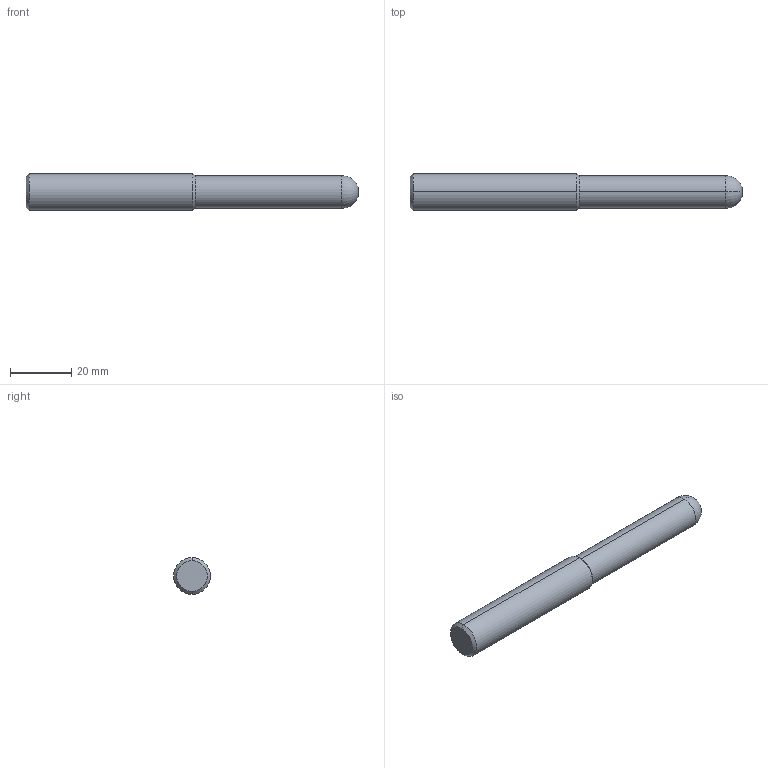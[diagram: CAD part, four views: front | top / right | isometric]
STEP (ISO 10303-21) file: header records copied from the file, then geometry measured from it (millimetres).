
FILE_DESCRIPTION (( 'STEP AP214' ), '1' );
FILE_NAME ('ZBS1202120K.STEP', '2021-10-01T00:08:46', ( '' ), ( '' ), 'SwSTEP 2.0', 'SolidWorks 2018', '' );
FILE_SCHEMA (( 'AUTOMOTIVE_DESIGN' ));
Length unit declared in the file: millimetre
Products named in the file (1): ZBS1202120K
Bounding box: 108 x 12 x 12 mm (x, y, z)
Volume: 10650.8 mm3; surface area: 3928.7 mm2
Topology: 1 solids, 1 shells, 12 faces, 22 edges, 12 vertices
Faces by surface type: cone 4, cylinder 4, torus 2, plane 2
Entity records: 330 total; most frequent: DIRECTION 62, CARTESIAN_POINT 47, ORIENTED_EDGE 44, AXIS2_PLACEMENT_3D 27, EDGE_CURVE 22, CIRCLE 14, VERTEX_POINT 12, ADVANCED_FACE 12
